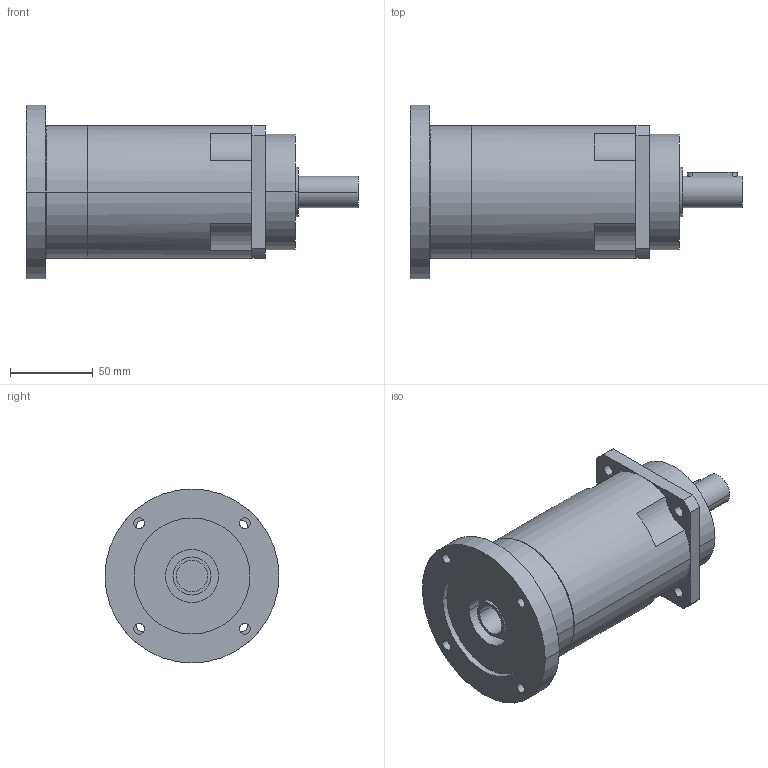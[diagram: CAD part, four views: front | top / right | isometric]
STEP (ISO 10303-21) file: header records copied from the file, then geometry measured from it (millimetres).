
FILE_DESCRIPTION(('CoCreate Modeling STEP Export'),'2;1');
FILE_NAME('GPR100_ig-48-64-80-100-120-144-180-216_19_B5_19_P12.stp','2014-08-26T11:56:52',(''),(''),'CoCreate Modeling STEP processor for AP214 (Solid Model)','CoCreate Modeling 16.00C 25-Feb-2009 (C) Parametric Technology GmbH','');
FILE_SCHEMA(('AUTOMOTIVE_DESIGN { 1 0 10303 214 1 1 1 1 }'));
Length unit declared in the file: millimetre
Products named in the file (2): GPR100_ig-48-64-80-100-120-144-180-216_19_B5_19_P12
Assembly tree (1 placements, depth 2):
  GPR100_ig-48-64-80-100-120-144-180-216_19_B5_19_P12
    GPR100_ig-48-64-80-100-120-144-180-216_19_B5_19_P12
Bounding box: 200.4 x 105 x 105 mm (x, y, z)
Surface area: 70905.6 mm2 (no closed solid volume)
Topology: 0 solids, 1 shells, 92 faces, 265 edges, 183 vertices
Faces by surface type: cylinder 56, plane 30, cone 6
Entity records: 2724 total; most frequent: CARTESIAN_POINT 531, ORIENTED_EDGE 524, DIRECTION 376, EDGE_CURVE 263, VERTEX_POINT 183, AXIS2_PLACEMENT_3D 144, EDGE_LOOP 119, FACE_OUTER_BOUND 92
